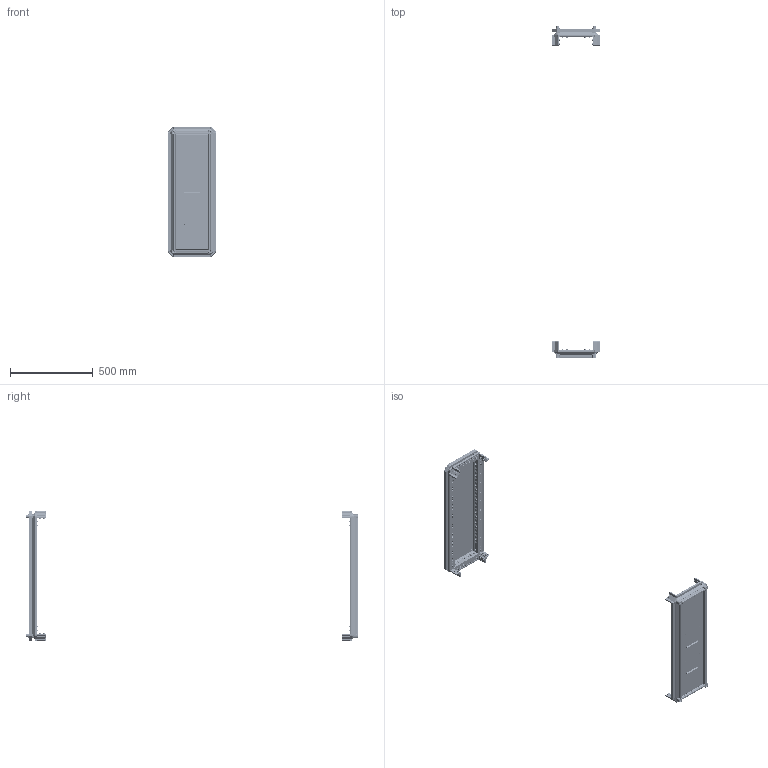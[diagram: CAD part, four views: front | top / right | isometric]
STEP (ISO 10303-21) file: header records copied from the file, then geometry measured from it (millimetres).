
FILE_DESCRIPTION (( 'STEP AP203' ), '1' );
FILE_NAME ('MA1.101.030820.00.00 AleSta-RB38 Êîìïëåêò êðûøà è îñíîâàíèå.STEP', '2025-02-19T13:53:47', ( '' ), ( '' ), 'SwSTEP 2.0', 'SolidWorks 2021', '' );
FILE_SCHEMA (( 'CONFIG_CONTROL_DESIGN' ));
Length unit declared in the file: millimetre
Products named in the file (19): MA1.101.060620.20.02 Çàêðûòèå íèæíåé ïàíåëè 600õ600_300x800; Óïëîòíèòåëü ïàíåëè íèæíåé_300å800; MA1.101.060620.20.00 Íèæíÿÿ ïàíåëü 600õ600_300å800; MA1.101.060620.10.00 Êðûøà 600x600_300å800; MA1.101.060620.20.01 Ïîëîòíî íèæíåé ïàíåëè 600õ600_300å800; Øàéáà ñòîïîðíàÿ ñ íàðóæíûìè çóáöàìè SCHNORR, òèï VS öèíêîâûå õëîïüÿ Ì6 O6,4 ART 88121_Œ6; MA1.100.060620.00.01 Ñîåäèíèòåëü óãëîâîé_00; Øïèëüêà Ì6õ12_˜¯¨«ìª  Œ6å12; Âèíò ðåçüáîâûäàâëèâàþùèé Ì6õ12 DIN 7500E_Œ6å10; Âèíò_ðåçüáîâûäàâëèâàþùèé_Ì5õ12_DIN 7500E_Œ5å12; ﾘ琺矜 01.019 ﾃﾎﾑﾒ11371-78_12; Âèíò ñ âí. øåñòèãðàííèêîì M12 DIN912_•30; MA1.101.060620.10.01 Ïîëîòíî êðûøè 600õ600_300x800; 7380-2 ISO Âèíòû ñ ïîëóêðóãëîé ãîëîâêîé ñ ôëàíöåì ñ âíóòðåííèì øåñòèãðàííèêîì Ì4õ10; MA1.101.060620.00.02 Ïðîôèëü ïîïåðå÷íûé ñâàðíîé_02 L=698 (˜=800) ; ﾘ琺矜 65ﾃ 019 ﾃﾎﾑﾒ 6402-70_12; MA1.101.060620.00.02 Ïðîôèëü ïîïåðå÷íûé ñâàðíîé_03 L=198 (˜=300); ﾇﾀﾊﾋﾅﾏﾊﾀ ﾃﾀﾅﾗﾍﾀﾟ ﾘﾅﾑﾒﾈﾃﾐﾀﾍﾍﾀﾟ ﾑ ﾓﾌﾅﾍﾜﾘﾅﾍﾍﾛﾌ ﾁﾎﾐﾒﾎﾌ M4 X 11 (0.5-2.5 ﾌﾌ) HEX U-S ﾖﾈﾍﾊ; MA1.101.030820.00.00 AleSta-RB38 Êîìïëåêò êðûøà è îñíîâàíèå
Assembly tree (215 placements, depth 3):
  MA1.101.030820.00.00 AleSta-RB38 Êîìïëåêò êðûøà è îñíîâàíèå
    MA1.101.060620.00.02 Ïðîôèëü ïîïåðå÷íûé ñâàðíîé_03 L=198 (˜=300)  x4
    MA1.101.060620.00.02 Ïðîôèëü ïîïåðå÷íûé ñâàðíîé_02 L=698 (˜=800)   x4
    MA1.101.060620.10.00 Êðûøà 600x600_300å800
      MA1.101.060620.10.01 Ïîëîòíî êðûøè 600õ600_300x800
      Øïèëüêà Ì6õ12_˜¯¨«ìª  Œ6å12  x4
      Óïëîòíèòåëü ïàíåëè íèæíåé_300å800
    MA1.101.060620.20.00 Íèæíÿÿ ïàíåëü 600õ600_300å800
      MA1.101.060620.20.01 Ïîëîòíî íèæíåé ïàíåëè 600õ600_300å800
      ﾇﾀﾊﾋﾅﾏﾊﾀ ﾃﾀﾅﾗﾍﾀﾟ ﾘﾅﾑﾒﾈﾃﾐﾀﾍﾍﾀﾟ ﾑ ﾓﾌﾅﾍﾜﾘﾅﾍﾍﾛﾌ ﾁﾎﾐﾒﾎﾌ M4 X 11 (0.5-2.5 ﾌﾌ) HEX U-S ﾖﾈﾍﾊ  x4
      MA1.101.060620.20.02 Çàêðûòèå íèæíåé ïàíåëè 600õ600_300x800  x2
      7380-2 ISO Âèíòû ñ ïîëóêðóãëîé ãîëîâêîé ñ ôëàíöåì ñ âíóòðåííèì øåñòèãðàííèêîì Ì4õ10  x4
    Âèíò_ðåçüáîâûäàâëèâàþùèé_Ì5õ12_DIN 7500E_Œ5å12  x8
    MA1.100.060620.00.01 Ñîåäèíèòåëü óãëîâîé_00  x8
    Âèíò ñ âí. øåñòèãðàííèêîì M12 DIN912_•30  x4
    Âèíò ðåçüáîâûäàâëèâàþùèé Ì6õ12 DIN 7500E_Œ6å10  x80
    ﾘ琺矜 01.019 ﾃﾎﾑﾒ11371-78_12  x4
    ﾘ琺矜 65ﾃ 019 ﾃﾎﾑﾒ 6402-70_12  x4
    Øàéáà ñòîïîðíàÿ ñ íàðóæíûìè çóáöàìè SCHNORR, òèï VS öèíêîâûå õëîïüÿ Ì6 O6,4 ART 88121_Œ6  x80
Bounding box: 292 x 2010.9 x 792 mm (x, y, z)
Volume: 2747742.9 mm3; surface area: 2545534.4 mm2
Topology: 213 solids, 213 shells, 11622 faces, 29992 edges, 18800 vertices
Faces by surface type: plane 8542, cylinder 2264, cone 520, bspline 248, torus 48
Entity records: 59736 total; most frequent: CARTESIAN_POINT 12475, DIRECTION 8242, ORIENTED_EDGE 8094, EDGE_CURVE 4047, VECTOR 2994, LINE 2994, AXIS2_PLACEMENT_3D 2624, VERTEX_POINT 2455
